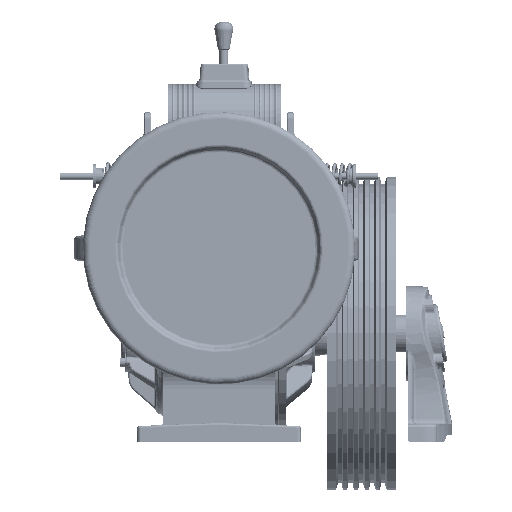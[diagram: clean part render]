
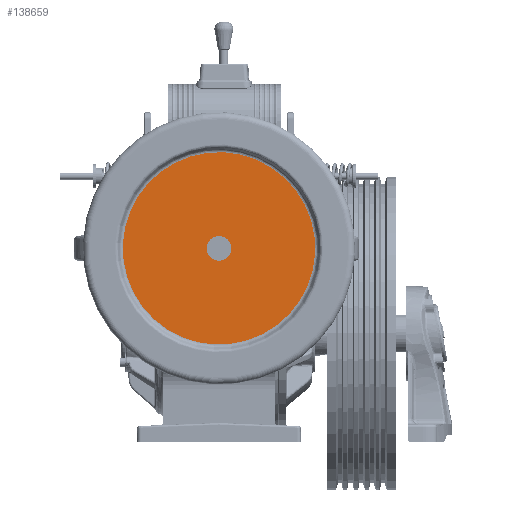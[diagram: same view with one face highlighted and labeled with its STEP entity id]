
A CAD part, front view. The second image highlights one B-rep face of the part: STEP entity #138659.
In plain terms, the highlighted planar face has unit normal (0, -1, 0).
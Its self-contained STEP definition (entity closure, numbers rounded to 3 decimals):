
#2490 = ORIENTED_EDGE ( 'NONE', *, *, #112887, .F. ) ;
#11547 = CIRCLE ( 'NONE', #152217, 18.111 ) ;
#11565 = CARTESIAN_POINT ( 'NONE',  ( 141.631, -466.113, 376.362 ) ) ;
#12804 = DIRECTION ( 'NONE',  ( -0.051, 0., -0.999 ) ) ;
#18524 = CARTESIAN_POINT ( 'NONE',  ( 141.631, -466.113, 376.362 ) ) ;
#33711 = DIRECTION ( 'NONE',  ( 0., -1., 0. ) ) ;
#34456 = CARTESIAN_POINT ( 'NONE',  ( 142.559, -466.113, 394.449 ) ) ;
#38087 = CARTESIAN_POINT ( 'NONE',  ( 148.872, -466.113, 517.517 ) ) ;
#41221 = VERTEX_POINT ( 'NONE', #233347 ) ;
#68175 = VERTEX_POINT ( 'NONE', #38087 ) ;
#68592 = EDGE_CURVE ( 'NONE', #41221, #98420, #146529, .T. ) ;
#72775 = PLANE ( 'NONE',  #193480 ) ;
#76448 = ORIENTED_EDGE ( 'NONE', *, *, #233995, .T. ) ;
#91330 = ORIENTED_EDGE ( 'NONE', *, *, #68592, .F. ) ;
#98019 = CARTESIAN_POINT ( 'NONE',  ( 141.631, -466.113, 376.362 ) ) ;
#98420 = VERTEX_POINT ( 'NONE', #34456 ) ;
#100330 = CARTESIAN_POINT ( 'NONE',  ( 141.631, -466.113, 376.362 ) ) ;
#100817 = ORIENTED_EDGE ( 'NONE', *, *, #232230, .T. ) ;
#111058 = CIRCLE ( 'NONE', #147207, 141.34 ) ;
#112887 = EDGE_CURVE ( 'NONE', #98420, #41221, #11547, .T. ) ;
#124494 = CARTESIAN_POINT ( 'NONE',  ( 282.786, -466.113, 369.121 ) ) ;
#138659 = ADVANCED_FACE ( 'NONE', ( #221434, #186147 ), #72775, .T. ) ;
#142560 = AXIS2_PLACEMENT_3D ( 'NONE', #100330, #177126, #175868 ) ;
#146529 = CIRCLE ( 'NONE', #142560, 18.111 ) ;
#147100 = DIRECTION ( 'NONE',  ( -0.051, 0., -0.999 ) ) ;
#147207 = AXIS2_PLACEMENT_3D ( 'NONE', #11565, #180307, #12804 ) ;
#148248 = DIRECTION ( 'NONE',  ( -0.051, 0., -0.999 ) ) ;
#152217 = AXIS2_PLACEMENT_3D ( 'NONE', #18524, #33711, #148248 ) ;
#167283 = CIRCLE ( 'NONE', #215460, 141.34 ) ;
#173559 = DIRECTION ( 'NONE',  ( -0.051, 0., -0.999 ) ) ;
#174419 = EDGE_LOOP ( 'NONE', ( #76448, #100817 ) ) ;
#174787 = DIRECTION ( 'NONE',  ( 0., -1., 0. ) ) ;
#175868 = DIRECTION ( 'NONE',  ( -0.051, 0., -0.999 ) ) ;
#177126 = DIRECTION ( 'NONE',  ( 0., -1., 0. ) ) ;
#180307 = DIRECTION ( 'NONE',  ( 0., -1., 0. ) ) ;
#185598 = EDGE_LOOP ( 'NONE', ( #2490, #91330 ) ) ;
#186147 = FACE_BOUND ( 'NONE', #185598, .T. ) ;
#193480 = AXIS2_PLACEMENT_3D ( 'NONE', #124494, #222694, #147100 ) ;
#194981 = CARTESIAN_POINT ( 'NONE',  ( 134.391, -466.113, 235.208 ) ) ;
#215460 = AXIS2_PLACEMENT_3D ( 'NONE', #98019, #174787, #173559 ) ;
#216367 = VERTEX_POINT ( 'NONE', #194981 ) ;
#221434 = FACE_OUTER_BOUND ( 'NONE', #174419, .T. ) ;
#222694 = DIRECTION ( 'NONE',  ( 0., -1., 0. ) ) ;
#232230 = EDGE_CURVE ( 'NONE', #68175, #216367, #111058, .T. ) ;
#233347 = CARTESIAN_POINT ( 'NONE',  ( 140.704, -466.113, 358.275 ) ) ;
#233995 = EDGE_CURVE ( 'NONE', #216367, #68175, #167283, .T. ) ;
